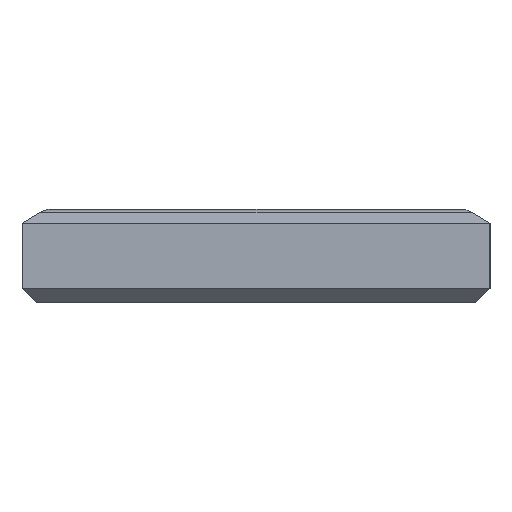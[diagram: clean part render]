
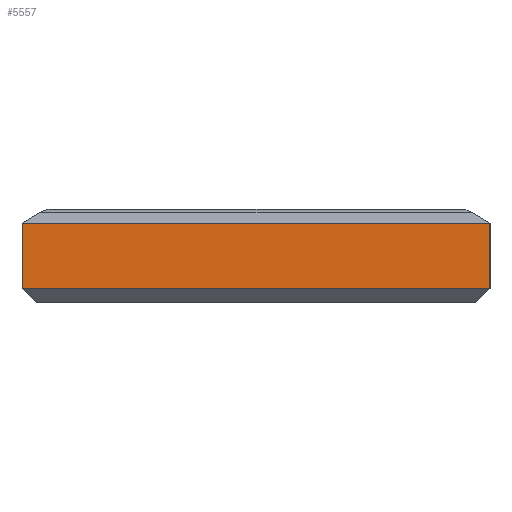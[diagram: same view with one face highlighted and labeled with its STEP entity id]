
A CAD part, left-side view. The second image highlights one B-rep face of the part: STEP entity #5557.
In plain terms, the highlighted planar face has unit normal (-1, 0, 0).
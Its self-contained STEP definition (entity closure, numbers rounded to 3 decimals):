
#70 = CARTESIAN_POINT ( 'NONE',  ( 0., 0., 10. ) ) ;
#276 = ORIENTED_EDGE ( 'NONE', *, *, #4380, .T. ) ;
#314 = VERTEX_POINT ( 'NONE', #899 ) ;
#439 = EDGE_CURVE ( 'NONE', #314, #2618, #4822, .T. ) ;
#491 = EDGE_LOOP ( 'NONE', ( #3819, #6907, #5163, #276 ) ) ;
#545 = CARTESIAN_POINT ( 'NONE',  ( 0., 100., 0. ) ) ;
#581 = DIRECTION ( 'NONE',  ( 0., -1., 0. ) ) ;
#619 = DIRECTION ( 'NONE',  ( 0., -1., 0. ) ) ;
#707 = DIRECTION ( 'NONE',  ( 0., 0., 1. ) ) ;
#762 = CARTESIAN_POINT ( 'NONE',  ( 0., 100., 10. ) ) ;
#899 = CARTESIAN_POINT ( 'NONE',  ( 0., 100., 17. ) ) ;
#1109 = PLANE ( 'NONE',  #3276 ) ;
#1135 = DIRECTION ( 'NONE',  ( 0., 0., 1. ) ) ;
#1370 = EDGE_CURVE ( 'NONE', #5653, #2618, #4039, .T. ) ;
#1384 = CARTESIAN_POINT ( 'NONE',  ( 0., 0., 17. ) ) ;
#2112 = VERTEX_POINT ( 'NONE', #2678 ) ;
#2618 = VERTEX_POINT ( 'NONE', #1384 ) ;
#2678 = CARTESIAN_POINT ( 'NONE',  ( 0., 100., 3. ) ) ;
#3276 = AXIS2_PLACEMENT_3D ( 'NONE', #545, #4611, #1135 ) ;
#3819 = ORIENTED_EDGE ( 'NONE', *, *, #1370, .T. ) ;
#4039 = LINE ( 'NONE', #70, #6608 ) ;
#4148 = FACE_OUTER_BOUND ( 'NONE', #491, .T. ) ;
#4380 = EDGE_CURVE ( 'NONE', #2112, #5653, #6173, .T. ) ;
#4434 = VECTOR ( 'NONE', #707, 1000. ) ;
#4598 = VECTOR ( 'NONE', #619, 1000. ) ;
#4611 = DIRECTION ( 'NONE',  ( -1., 0., 0. ) ) ;
#4822 = LINE ( 'NONE', #6143, #6217 ) ;
#5120 = DIRECTION ( 'NONE',  ( 0., 0., 1. ) ) ;
#5163 = ORIENTED_EDGE ( 'NONE', *, *, #5190, .F. ) ;
#5190 = EDGE_CURVE ( 'NONE', #2112, #314, #5982, .T. ) ;
#5277 = CARTESIAN_POINT ( 'NONE',  ( 0., 0., 3. ) ) ;
#5557 = ADVANCED_FACE ( 'NONE', ( #4148 ), #1109, .T. ) ;
#5653 = VERTEX_POINT ( 'NONE', #5277 ) ;
#5814 = CARTESIAN_POINT ( 'NONE',  ( 0., 50., 3. ) ) ;
#5982 = LINE ( 'NONE', #762, #4434 ) ;
#6143 = CARTESIAN_POINT ( 'NONE',  ( 0., 50., 17. ) ) ;
#6173 = LINE ( 'NONE', #5814, #4598 ) ;
#6217 = VECTOR ( 'NONE', #581, 1000. ) ;
#6608 = VECTOR ( 'NONE', #5120, 1000. ) ;
#6907 = ORIENTED_EDGE ( 'NONE', *, *, #439, .F. ) ;
